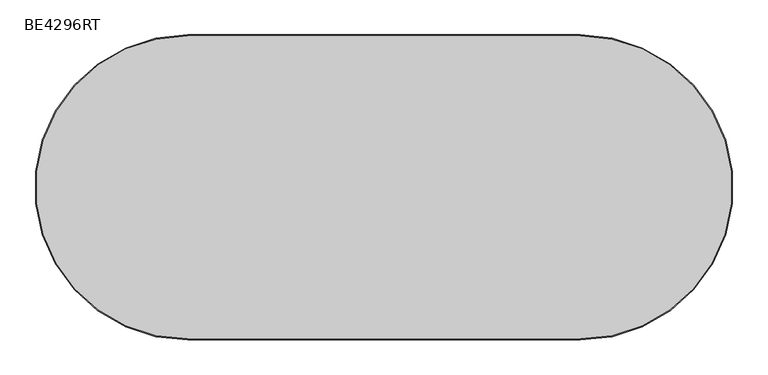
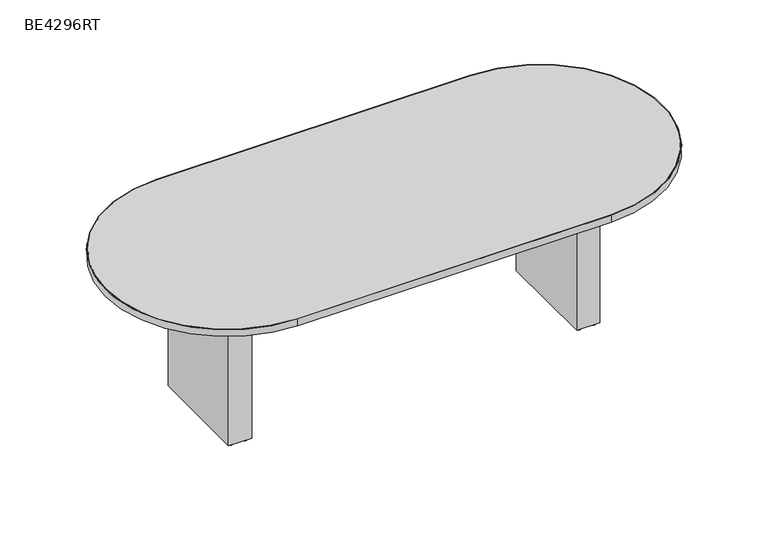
"""IFC4 building model written with IfcOpenShell, lengths in millimetres: furniture geometry, ERG-Beta-Conference_Table-Racetrack : BE4296RT."""

from ifc_helpers import new_model, si_unit, point, frame, frame_2d, origin, origin_with_axes, place, context, project, spatial, polyline, circle_curve, trimmed, segment, composite_curve, outline, extrude, source, transform, mapped, element, save


def be4296rt_6f28001f(model_context):
    return source(origin(), model_context, "Body", "SweptSolid", [
        extrude(outline(composite_curve([segment(trimmed(circle_curve(frame_2d((1273.175, 263.276527)), 9.525), [point((1263.65, 263.276527))], [point((1282.7, 263.276527))], False, "CARTESIAN"), True, "CONTINUOUS"), segment(trimmed(circle_curve(frame_2d((1273.175, 263.276527)), 9.525), [point((1282.7, 263.276527))], [point((1263.65, 263.276527))], False, "CARTESIAN"), True, "CONTINUOUS")], self_intersect=False)), origin_with_axes(), (0.0, 0.0, 1.0), 9.525),
        extrude(outline(composite_curve([segment(trimmed(circle_curve(frame_2d((1336.675, 263.276527)), 9.525), [point((1327.15, 263.276527))], [point((1346.2, 263.276527))], False, "CARTESIAN"), True, "CONTINUOUS"), segment(trimmed(circle_curve(frame_2d((1336.675, 263.276527)), 9.525), [point((1346.2, 263.276527))], [point((1327.15, 263.276527))], False, "CARTESIAN"), True, "CONTINUOUS")], self_intersect=False)), origin_with_axes(), (0.0, 0.0, 1.0), 9.525),
        extrude(outline(composite_curve([segment(trimmed(circle_curve(frame_2d((1273.175, -155.823473)), 9.525), [point((1263.65, -155.823473))], [point((1282.7, -155.823473))], False, "CARTESIAN"), True, "CONTINUOUS"), segment(trimmed(circle_curve(frame_2d((1273.175, -155.823473)), 9.525), [point((1282.7, -155.823473))], [point((1263.65, -155.823473))], False, "CARTESIAN"), True, "CONTINUOUS")], self_intersect=False)), origin_with_axes(), (0.0, 0.0, 1.0), 9.525),
        extrude(outline(composite_curve([segment(trimmed(circle_curve(frame_2d((1336.675, -155.823473)), 9.525), [point((1327.15, -155.823473))], [point((1346.2, -155.823473))], False, "CARTESIAN"), True, "CONTINUOUS"), segment(trimmed(circle_curve(frame_2d((1336.675, -155.823473)), 9.525), [point((1346.2, -155.823473))], [point((1327.15, -155.823473))], False, "CARTESIAN"), True, "CONTINUOUS")], self_intersect=False)), origin_with_axes(), (0.0, 0.0, 1.0), 9.525),
        extrude(outline(polyline([(1355.725, 282.326527), (1355.725, -174.873473), (1254.125, -174.873473), (1254.125, 282.326527), (1355.725, 282.326527)])), frame((0.0, 0.0, 9.525), z_axis=(0.0, 0.0, 1.0), x_axis=(1.0, 0.0, 0.0)), (0.0, 0.0, 1.0), 695.3249758),
        extrude(outline(composite_curve([segment(trimmed(circle_curve(frame_2d((-250.825, 263.276527)), 9.525), [point((-260.35, 263.276527))], [point((-241.3, 263.276527))], False, "CARTESIAN"), True, "CONTINUOUS"), segment(trimmed(circle_curve(frame_2d((-250.825, 263.276527)), 9.525), [point((-241.3, 263.276527))], [point((-260.35, 263.276527))], False, "CARTESIAN"), True, "CONTINUOUS")], self_intersect=False)), origin_with_axes(), (0.0, 0.0, 1.0), 9.525),
        extrude(outline(composite_curve([segment(trimmed(circle_curve(frame_2d((-187.325, 263.276527)), 9.525), [point((-196.85, 263.276527))], [point((-177.8, 263.276527))], False, "CARTESIAN"), True, "CONTINUOUS"), segment(trimmed(circle_curve(frame_2d((-187.325, 263.276527)), 9.525), [point((-177.8, 263.276527))], [point((-196.85, 263.276527))], False, "CARTESIAN"), True, "CONTINUOUS")], self_intersect=False)), origin_with_axes(), (0.0, 0.0, 1.0), 9.525),
        extrude(outline(composite_curve([segment(trimmed(circle_curve(frame_2d((-250.825, -155.823473)), 9.525), [point((-260.35, -155.823473))], [point((-241.3, -155.823473))], False, "CARTESIAN"), True, "CONTINUOUS"), segment(trimmed(circle_curve(frame_2d((-250.825, -155.823473)), 9.525), [point((-241.3, -155.823473))], [point((-260.35, -155.823473))], False, "CARTESIAN"), True, "CONTINUOUS")], self_intersect=False)), origin_with_axes(), (0.0, 0.0, 1.0), 9.525),
        extrude(outline(composite_curve([segment(trimmed(circle_curve(frame_2d((-187.325, -155.823473)), 9.525), [point((-196.85, -155.823473))], [point((-177.8, -155.823473))], False, "CARTESIAN"), True, "CONTINUOUS"), segment(trimmed(circle_curve(frame_2d((-187.325, -155.823473)), 9.525), [point((-177.8, -155.823473))], [point((-196.85, -155.823473))], False, "CARTESIAN"), True, "CONTINUOUS")], self_intersect=False)), origin_with_axes(), (0.0, 0.0, 1.0), 9.525),
        extrude(outline(polyline([(-168.275, 282.326527), (-168.275, -174.873473), (-269.875, -174.873473), (-269.875, 282.326527), (-168.275, 282.326527)])), frame((0.0, 0.0, 9.525), z_axis=(0.0, 0.0, 1.0), x_axis=(1.0, 0.0, 0.0)), (0.0, 0.0, 1.0), 695.3249758),
        extrude(outline(composite_curve([segment(polyline([(1228.725, -476.498473), (-142.875, -476.498473)]), True, "CONTINUOUS"), segment(trimmed(circle_curve(frame_2d((-142.875, 53.726527)), 530.225), [point((-142.875, -476.498473))], [point((-142.875, 583.951527))], False, "CARTESIAN"), True, "CONTINUOUS"), segment(polyline([(-142.875, 583.951527), (1228.725, 583.951527)]), True, "CONTINUOUS"), segment(trimmed(circle_curve(frame_2d((1228.725, 53.726527)), 530.225), [point((1228.725, 583.951527))], [point((1228.725, -476.498473))], False, "CARTESIAN"), True, "CONTINUOUS")], self_intersect=False)), frame((0.0, 0.0, 704.85), z_axis=(0.0, 0.0, 1.0), x_axis=(1.0, 0.0, 0.0)), (0.0, 0.0, 1.0), 31.75),
        extrude(outline(composite_curve([segment(polyline([(-142.875, 587.126527), (1228.725, 587.126527)]), True, "CONTINUOUS"), segment(trimmed(circle_curve(frame_2d((1228.725, 53.726527)), 533.4), [point((1228.725, 587.126527))], [point((1228.725, -479.673473))], False, "CARTESIAN"), True, "CONTINUOUS"), segment(polyline([(1228.725, -479.673473), (-142.875, -479.673473)]), True, "CONTINUOUS"), segment(trimmed(circle_curve(frame_2d((-142.875, 53.726527)), 533.4), [point((-142.875, -479.673473))], [point((-142.875, 587.126527))], False, "CARTESIAN"), True, "CONTINUOUS")], self_intersect=False), holes=[composite_curve([segment(trimmed(circle_curve(frame_2d((-142.875, 53.726527)), 530.225), [point((-142.875, 583.951527))], [point((-142.875, -476.498473))], True, "CARTESIAN"), True, "CONTINUOUS"), segment(polyline([(-142.875, -476.498473), (1228.725, -476.498473)]), True, "CONTINUOUS"), segment(trimmed(circle_curve(frame_2d((1228.725, 53.726527)), 530.225), [point((1228.725, -476.498473))], [point((1228.725, 583.951527))], True, "CARTESIAN"), True, "CONTINUOUS"), segment(polyline([(1228.725, 583.951527), (-142.875, 583.951527)]), True, "CONTINUOUS")], self_intersect=False)]), frame((0.0, 0.0, 704.85), z_axis=(0.0, 0.0, 1.0), x_axis=(1.0, 0.0, 0.0)), (0.0, 0.0, 1.0), 31.75),
    ])


if __name__ == "__main__":
    model = new_model("IFC4")
    model_context = context("Model", 3, world=origin())
    ifc_project = project(units=[si_unit("LENGTHUNIT", "METRE", prefix="MILLI")], contexts=[model_context])
    site = spatial("IfcSite", under=ifc_project)
    building = spatial("IfcBuilding", under=site)
    placement = place(None, origin())
    be4296rt_shape = be4296rt_6f28001f(model_context)
    element("IfcFurniture", 1, ObjectType="ERG-Beta-Conference_Table-Racetrack : BE4296RT", at=placement, inside=building, context=model_context, shape_type="MappedRepresentation", body=[
        mapped(be4296rt_shape, transform((0.0, 0.0, 0.0), x_axis=(1.0, 0.0, 0.0), y_axis=(0.0, 1.0, 0.0), z_axis=(0.0, 0.0, 1.0))),
    ])
    save(model, "model.ifc")
